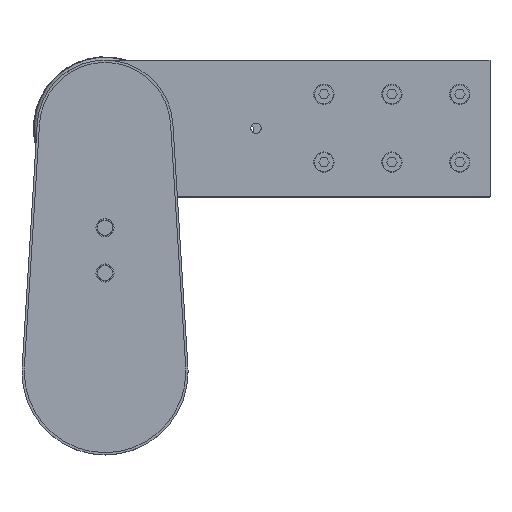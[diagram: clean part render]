
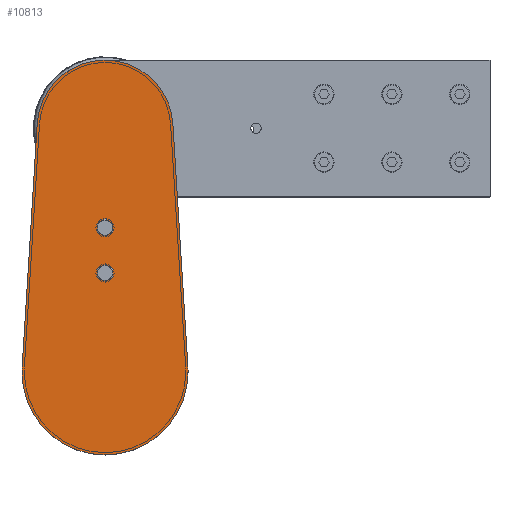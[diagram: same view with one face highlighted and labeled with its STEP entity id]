
A CAD part, top view. The second image highlights one B-rep face of the part: STEP entity #10813.
In plain terms, the highlighted planar face has unit normal (0, 0, 1) as drawn and (0, 0, -1) by its records, which use the part's own axes.
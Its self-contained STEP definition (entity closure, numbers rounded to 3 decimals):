
#10813 = ADVANCED_FACE ( 'NONE', ( #38549, #38541, #38551 ), #38552, .F. ) ;
#14242 = CARTESIAN_POINT ( 'NONE',  ( 0., 95.5, 0. ) ) ;
#14243 = DIRECTION ( 'NONE',  ( 0., 0., -1. ) ) ;
#14244 = DIRECTION ( 'NONE',  ( 1., 0., 0. ) ) ;
#14247 = CARTESIAN_POINT ( 'NONE',  ( 0., 65.5, 0. ) ) ;
#14248 = DIRECTION ( 'NONE',  ( 0., 0., -1. ) ) ;
#14249 = DIRECTION ( 'NONE',  ( 1., 0., 0. ) ) ;
#14278 = CARTESIAN_POINT ( 'NONE',  ( 0., 0., 0. ) ) ;
#14279 = DIRECTION ( 'NONE',  ( 0., 0., 1. ) ) ;
#14280 = DIRECTION ( 'NONE',  ( 1., 0., 0. ) ) ;
#14292 = CARTESIAN_POINT ( 'NONE',  ( 0., 0., 0. ) ) ;
#14293 = DIRECTION ( 'NONE',  ( 0., 0., 1. ) ) ;
#14294 = DIRECTION ( 'NONE',  ( 1., 0., 0. ) ) ;
#19886 = VERTEX_POINT ( 'NONE', #51813 ) ;
#19890 = VERTEX_POINT ( 'NONE', #51817 ) ;
#19892 = VERTEX_POINT ( 'NONE', #51819 ) ;
#19898 = VERTEX_POINT ( 'NONE', #51818 ) ;
#20042 = VERTEX_POINT ( 'NONE', #51893 ) ;
#20052 = VERTEX_POINT ( 'NONE', #51898 ) ;
#20057 = ORIENTED_EDGE ( 'NONE', *, *, #47650, .F. ) ;
#20059 = ORIENTED_EDGE ( 'NONE', *, *, #47950, .F. ) ;
#20061 = ORIENTED_EDGE ( 'NONE', *, *, #47652, .F. ) ;
#20063 = ORIENTED_EDGE ( 'NONE', *, *, #47912, .F. ) ;
#20065 = ORIENTED_EDGE ( 'NONE', *, *, #47890, .F. ) ;
#20067 = ORIENTED_EDGE ( 'NONE', *, *, #47942, .F. ) ;
#20069 = ORIENTED_EDGE ( 'NONE', *, *, #47674, .F. ) ;
#20071 = ORIENTED_EDGE ( 'NONE', *, *, #47682, .F. ) ;
#20072 = VERTEX_POINT ( 'NONE', #51908 ) ;
#20073 = ORIENTED_EDGE ( 'NONE', *, *, #47946, .F. ) ;
#20075 = ORIENTED_EDGE ( 'NONE', *, *, #47894, .F. ) ;
#20140 = VERTEX_POINT ( 'NONE', #51942 ) ;
#20142 = VERTEX_POINT ( 'NONE', #51943 ) ;
#20152 = VERTEX_POINT ( 'NONE', #24827 ) ;
#24827 = CARTESIAN_POINT ( 'NONE',  ( -55., 0., 0. ) ) ;
#26106 = LINE ( 'NONE', #26121, #44881 ) ;
#26109 = CARTESIAN_POINT ( 'NONE',  ( 0., 161.5, 0. ) ) ;
#26112 = DIRECTION ( 'NONE',  ( 0., 0., 1. ) ) ;
#26114 = DIRECTION ( 'NONE',  ( 1., 0., 0. ) ) ;
#26121 = CARTESIAN_POINT ( 'NONE',  ( -44.914, 164.286, 0. ) ) ;
#26126 = DIRECTION ( 'NONE',  ( -0.062, -0.998, 0. ) ) ;
#26211 = CARTESIAN_POINT ( 'NONE',  ( 0., 65.5, 0. ) ) ;
#26213 = DIRECTION ( 'NONE',  ( 0., 0., -1. ) ) ;
#26216 = DIRECTION ( 'NONE',  ( 1., 0., 0. ) ) ;
#26336 = LINE ( 'NONE', #26338, #44961 ) ;
#26338 = CARTESIAN_POINT ( 'NONE',  ( 44.914, 164.286, 0. ) ) ;
#26360 = DIRECTION ( 'NONE',  ( -0.062, 0.998, 0. ) ) ;
#26382 = CARTESIAN_POINT ( 'NONE',  ( 0., 0., 0. ) ) ;
#26385 = DIRECTION ( 'NONE',  ( 0., 0., 1. ) ) ;
#26387 = DIRECTION ( 'NONE',  ( 1., 0., 0. ) ) ;
#26399 = CARTESIAN_POINT ( 'NONE',  ( 0., 95.5, 0. ) ) ;
#26402 = DIRECTION ( 'NONE',  ( 0., 0., -1. ) ) ;
#26404 = DIRECTION ( 'NONE',  ( 1., 0., 0. ) ) ;
#31791 = EDGE_LOOP ( 'NONE', ( #20057, #20059 ) ) ;
#31800 = EDGE_LOOP ( 'NONE', ( #20065, #20067, #20069, #20071, #20073, #20075 ) ) ;
#31802 = EDGE_LOOP ( 'NONE', ( #20061, #20063 ) ) ;
#32265 = AXIS2_PLACEMENT_3D ( 'NONE', #38548, #38545, #38554 ) ;
#38541 = FACE_BOUND ( 'NONE', #31802, .T. ) ;
#38545 = DIRECTION ( 'NONE',  ( 0., 0., 1. ) ) ;
#38548 = CARTESIAN_POINT ( 'NONE',  ( 0., 161.5, 0. ) ) ;
#38549 = FACE_BOUND ( 'NONE', #31791, .T. ) ;
#38551 = FACE_OUTER_BOUND ( 'NONE', #31800, .T. ) ;
#38552 = PLANE ( 'NONE',  #32265 ) ;
#38554 = DIRECTION ( 'NONE',  ( 1., 0., 0. ) ) ;
#44580 = CIRCLE ( 'NONE', #44583, 3.5 ) ;
#44581 = CIRCLE ( 'NONE', #44587, 3.5 ) ;
#44583 = AXIS2_PLACEMENT_3D ( 'NONE', #14242, #14243, #14244 ) ;
#44587 = AXIS2_PLACEMENT_3D ( 'NONE', #14247, #14248, #14249 ) ;
#44605 = CIRCLE ( 'NONE', #44610, 55. ) ;
#44610 = AXIS2_PLACEMENT_3D ( 'NONE', #14278, #14279, #14280 ) ;
#44617 = CIRCLE ( 'NONE', #44623, 55. ) ;
#44623 = AXIS2_PLACEMENT_3D ( 'NONE', #14292, #14293, #14294 ) ;
#44881 = VECTOR ( 'NONE', #26126, 1000. ) ;
#44882 = CIRCLE ( 'NONE', #44888, 45. ) ;
#44888 = AXIS2_PLACEMENT_3D ( 'NONE', #26109, #26112, #26114 ) ;
#44910 = CIRCLE ( 'NONE', #44919, 3.5 ) ;
#44919 = AXIS2_PLACEMENT_3D ( 'NONE', #26211, #26213, #26216 ) ;
#44961 = VECTOR ( 'NONE', #26360, 1000. ) ;
#44968 = CIRCLE ( 'NONE', #44972, 55. ) ;
#44972 = AXIS2_PLACEMENT_3D ( 'NONE', #26382, #26385, #26387 ) ;
#44974 = CIRCLE ( 'NONE', #44978, 3.5 ) ;
#44978 = AXIS2_PLACEMENT_3D ( 'NONE', #26399, #26402, #26404 ) ;
#47650 = EDGE_CURVE ( 'NONE', #19890, #19892, #44580, .T. ) ;
#47652 = EDGE_CURVE ( 'NONE', #19898, #19886, #44581, .T. ) ;
#47674 = EDGE_CURVE ( 'NONE', #20142, #20140, #44605, .T. ) ;
#47682 = EDGE_CURVE ( 'NONE', #20152, #20142, #44617, .T. ) ;
#47890 = EDGE_CURVE ( 'NONE', #20042, #20052, #44882, .T. ) ;
#47894 = EDGE_CURVE ( 'NONE', #20052, #20072, #26106, .T. ) ;
#47912 = EDGE_CURVE ( 'NONE', #19886, #19898, #44910, .T. ) ;
#47942 = EDGE_CURVE ( 'NONE', #20140, #20042, #26336, .T. ) ;
#47946 = EDGE_CURVE ( 'NONE', #20072, #20152, #44968, .T. ) ;
#47950 = EDGE_CURVE ( 'NONE', #19892, #19890, #44974, .T. ) ;
#51813 = CARTESIAN_POINT ( 'NONE',  ( -3.5, 65.5, 0. ) ) ;
#51817 = CARTESIAN_POINT ( 'NONE',  ( 3.5, 95.5, 0. ) ) ;
#51818 = CARTESIAN_POINT ( 'NONE',  ( 3.5, 65.5, 0. ) ) ;
#51819 = CARTESIAN_POINT ( 'NONE',  ( -3.5, 95.5, 0. ) ) ;
#51893 = CARTESIAN_POINT ( 'NONE',  ( 44.914, 164.286, 0. ) ) ;
#51898 = CARTESIAN_POINT ( 'NONE',  ( -44.914, 164.286, 0. ) ) ;
#51908 = CARTESIAN_POINT ( 'NONE',  ( -54.894, 3.406, 0. ) ) ;
#51942 = CARTESIAN_POINT ( 'NONE',  ( 54.894, 3.406, 0. ) ) ;
#51943 = CARTESIAN_POINT ( 'NONE',  ( 55., 0., 0. ) ) ;
